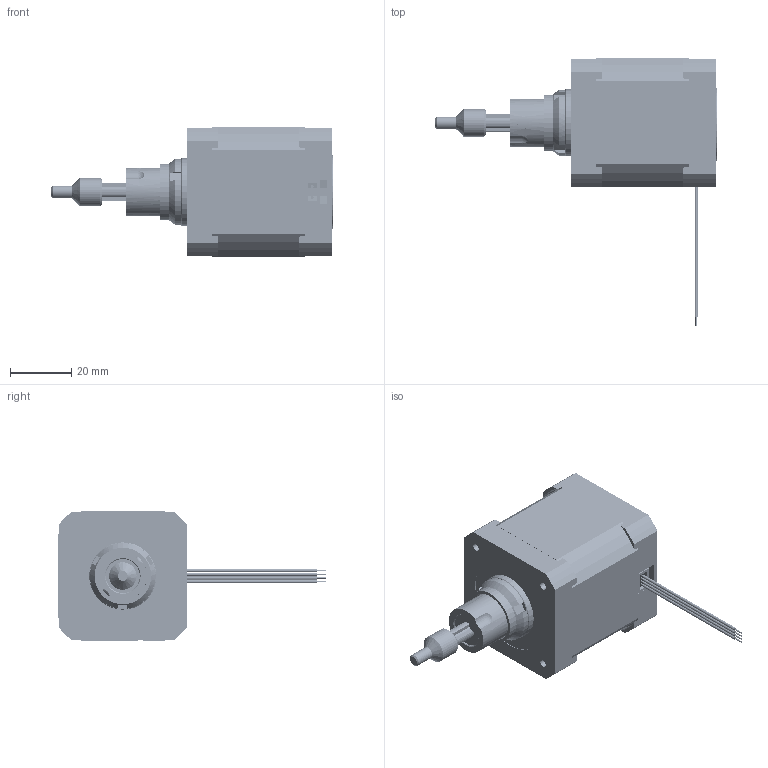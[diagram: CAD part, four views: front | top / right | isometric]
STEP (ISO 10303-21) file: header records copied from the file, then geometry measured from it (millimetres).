
FILE_DESCRIPTION((''),'2;1');
FILE_NAME('42CC4X-X-XXX-XXX_ASM','2023-03-24T',('guangyan.zhou'),(''),'CREO PARAMETRIC BY PTC INC, 2017300','CREO PARAMETRIC BY PTC INC, 2017300','');
FILE_SCHEMA(('CONFIG_CONTROL_DESIGN'));
Products named in the file (150): EB42-1003_AF0; ST42-1003_AF61; ST42-1003_AF62; ST42-1003_AF63; ST42-1003_AF64; ST42-1003_AF65; ST42-1003_AF66; ST42-1003_AF67; ST42-1003_AF68; ST42-1003_AF69; ST42-1003_AF70; ST42-1003_AF71; ST42-1003_AF72; ST42-1003_AF73; ST42-1003_AF74; ST42-1003_AF75; ST42-1003_AF76; ST42-1003_AF77; ST42-1003_AF78; ST42-1003_AF79; ST42-1003_AF80; ST42-1003_AF81; ST42-1003_AF82; ST42-1003_AF83; ST42-1003_AF84; ST42-1003_AF85; ST42-1003_AF86; ST42-1003_AF87; ST42-1003_AF88; ST42-1003_AF89; ST42-1003_AF90; ST42-1003_AF91; ST42-1003_AF92; ST42-1003_AF93; ST42-1003_AF94; ST42-1003_AF95; ST42-1003_AF96; ST42-1003_AF97; ST42-1003_AF98; ST42-1003_AF99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
Assembly tree (151 placements, depth 4):
  42CC4X-X-XXX-XXX_ASM
    EB42-1003_AF0
    ST42-1004_AF0_ASM
      ST42-1005_AF0_ASM
        ST42-1003_AF61
        ST42-1003_AF62
        ST42-1003_AF63
        ST42-1003_AF64
        ST42-1003_AF65
        ST42-1003_AF66
        ST42-1003_AF67
        ST42-1003_AF68
        ST42-1003_AF69
        ST42-1003_AF70
        ST42-1003_AF71
        ST42-1003_AF72
        ST42-1003_AF73
        ST42-1003_AF74
        ST42-1003_AF75
        ST42-1003_AF76
        ST42-1003_AF77
        ST42-1003_AF78
        ST42-1003_AF79
        ST42-1003_AF80
        ST42-1003_AF81
        ST42-1003_AF82
        ST42-1003_AF83
        ST42-1003_AF84
        ST42-1003_AF85
        ST42-1003_AF86
        ST42-1003_AF87
        ST42-1003_AF88
        ST42-1003_AF89
        ST42-1003_AF90
        ST42-1003_AF91
        ST42-1003_AF92
        ST42-1003_AF93
        ST42-1003_AF94
        ST42-1003_AF95
        ST42-1003_AF96
        ST42-1003_AF97
        ST42-1003_AF98
        ST42-1003_AF99
        ST42-1003_AF100
        ST42-1003_AF101
        ST42-1003_AF102
        ST42-1003_AF103
        ST42-1003_AF104
        ST42-1003_AF105
        ST42-1003_AF106
        ST42-1003_AF107
        ST42-1003_AF108
        ST42-1003_AF109
        ST42-1003_AF110
        ST42-1003_AF111
        ST42-1003_AF112
        ST42-1003_AF113
        ST42-1003_AF114
        ST42-1003_AF115
        ST42-1003_AF116
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Bounding box: 92 x 87.45 x 42.2 mm (x, y, z)
Volume: 29535 mm3; surface area: 81862.8 mm2
Topology: 117 solids, 133 shells, 6631 faces, 18899 edges, 12565 vertices
Faces by surface type: cylinder 3112, plane 2651, extrusion 727, bspline 67, cone 32, torus 32, sphere 10
Entity records: 249280 total; most frequent: CARTESIAN_POINT 67266, ORIENTED_EDGE 37728, DIRECTION 36544, EDGE_CURVE 18893, VERTEX_POINT 12565, AXIS2_PLACEMENT_3D 12553, VECTOR 11438, LINE 10711
